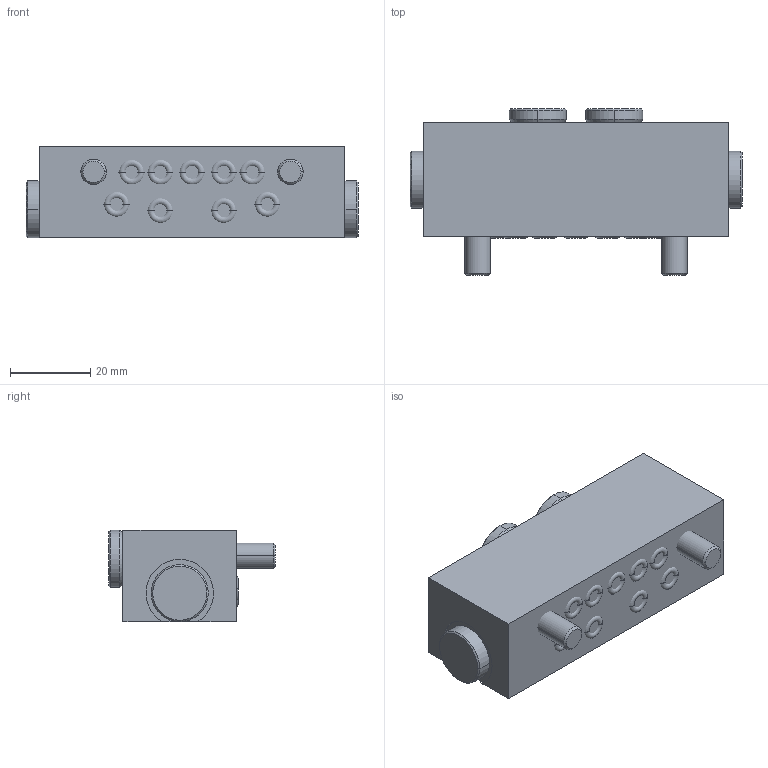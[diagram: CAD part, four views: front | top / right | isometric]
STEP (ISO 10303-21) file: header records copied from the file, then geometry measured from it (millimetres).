
FILE_DESCRIPTION((''),'2;1');
FILE_NAME('562685-EN-M_PRT','2020-03-05T07:49:14',('qusrh3'),(''),'CREO PARAMETRIC BY PTC INC, 2019030','CREO PARAMETRIC BY PTC INC, 2019030','');
FILE_SCHEMA(('CONFIG_CONTROL_DESIGN'));
Length unit declared in the file: inch
Products named in the file (1): 562685-EN-M_PRT
Bounding box: 82.98 x 41.66 x 22.86 mm (x, y, z)
Surface area: 12059.3 mm2 (no closed solid volume)
Topology: 0 solids, 16 shells, 62 faces, 146 edges, 92 vertices
Faces by surface type: torus 18, cone 16, plane 14, cylinder 14
Entity records: 1815 total; most frequent: DIRECTION 368, CARTESIAN_POINT 300, ORIENTED_EDGE 244, AXIS2_PLACEMENT_3D 160, EDGE_CURVE 146, CIRCLE 98, VERTEX_POINT 92, EDGE_LOOP 62
